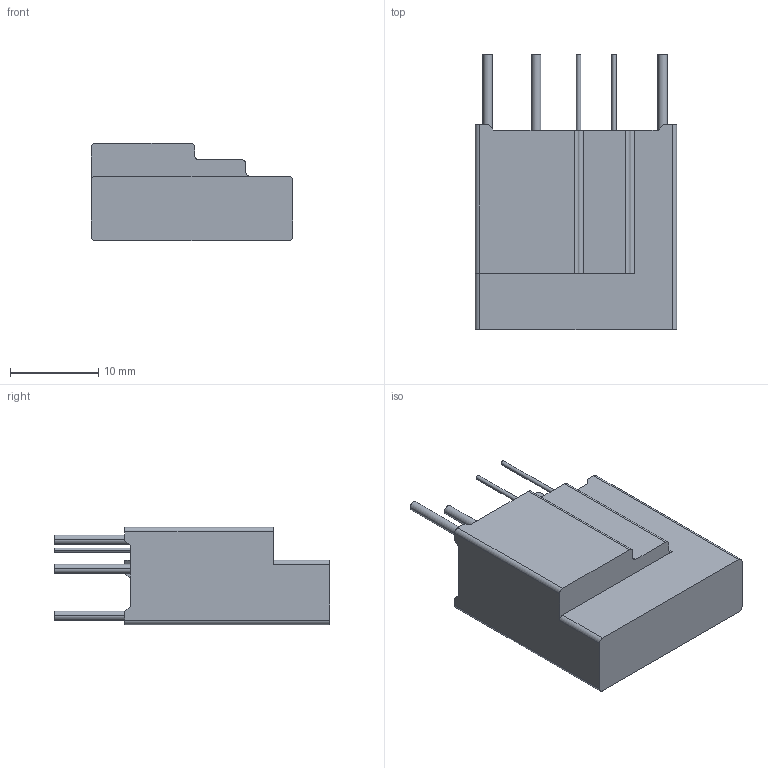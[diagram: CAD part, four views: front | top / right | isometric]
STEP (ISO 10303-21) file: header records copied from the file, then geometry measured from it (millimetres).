
FILE_DESCRIPTION((''),'2;1');
FILE_NAME('20S4401-IT-20200616','2020-06-19T',('set'),(''),'PRO/ENGINEER BY PARAMETRIC TECHNOLOGY CORPORATION, 2012310','PRO/ENGINEER BY PARAMETRIC TECHNOLOGY CORPORATION, 2012310','');
FILE_SCHEMA(('CONFIG_CONTROL_DESIGN','SHAPE_APPEARANCE_LAYERS_GROUPS'));
Length unit declared in the file: millimetre
Products named in the file (1): 20S4401-IT-20200616
Bounding box: 22.8 x 31.2 x 11 mm (x, y, z)
Volume: 1414.1 mm3; surface area: 3675.4 mm2
Topology: 1 solids, 2 shells, 110 faces, 303 edges, 202 vertices
Faces by surface type: plane 80, cylinder 30
Entity records: 3536 total; most frequent: CARTESIAN_POINT 615, ORIENTED_EDGE 606, DIRECTION 583, EDGE_CURVE 303, VECTOR 243, LINE 243, VERTEX_POINT 202, AXIS2_PLACEMENT_3D 170
